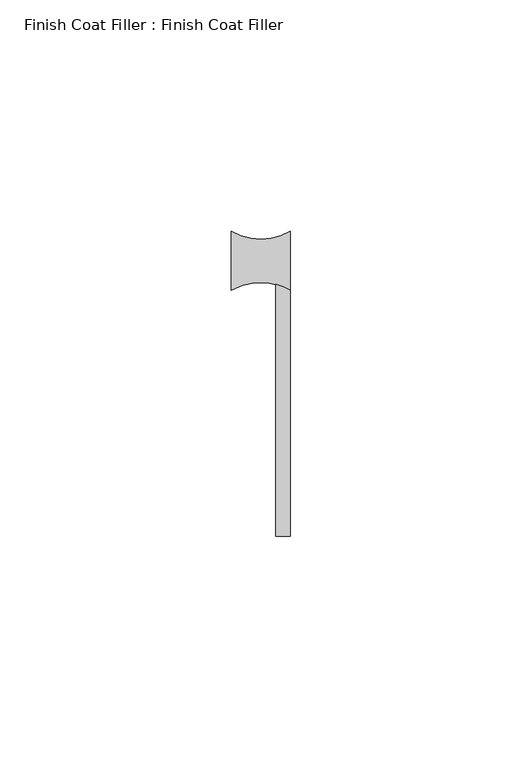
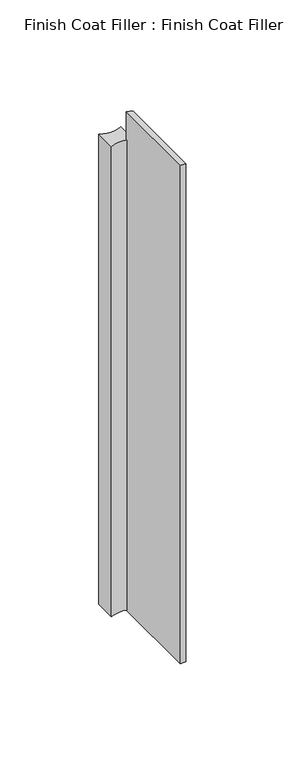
"""IFC4 building model written with IfcOpenShell, lengths in millimetres: proxy geometry, Finish Coat Filler : Finish Coat Filler."""

from ifc_helpers import new_model, si_unit, point, frame_2d, origin, origin_with_axes, place, context, project, spatial, polyline, circle_curve, trimmed, segment, composite_curve, outline, extrude, source, transform, mapped, element, save


def finish_coat_filler_finish_coat_filler_f99f7fa1(model_context):
    return source(origin(), model_context, "Body", "SweptSolid", [
        extrude(outline(composite_curve([segment(polyline([(26843.1851773, 591.9128797), (26843.1851773, 604.6128797)]), True, "CONTINUOUS"), segment(trimmed(circle_curve(frame_2d((26849.5351773, 615.6114023)), 12.7), [point((26843.1851773, 604.6128797))], [point((26855.8851773, 604.6128797))], True, "CARTESIAN"), True, "CONTINUOUS"), segment(polyline([(26855.8851773, 604.6128797), (26855.8851773, 591.9128797)]), True, "CONTINUOUS"), segment(trimmed(circle_curve(frame_2d((26849.5351773, 580.914357)), 12.7), [point((26855.8851773, 591.9128797))], [point((26843.1851773, 591.9128797))], True, "CARTESIAN"), True, "CONTINUOUS")], self_intersect=False)), origin_with_axes(), (0.0, 0.0, 1.0), 290.5125),
        extrude(outline(composite_curve([segment(polyline([(26852.7101773, 538.7316297), (26852.7101773, 593.2110791)]), True, "CONTINUOUS"), segment(trimmed(circle_curve(frame_2d((26849.5351773, 580.914357)), 12.7), [point((26852.7101773, 593.2110791))], [point((26855.8851773, 591.9128797))], False, "CARTESIAN"), True, "CONTINUOUS"), segment(polyline([(26855.8851773, 591.9128797), (26855.8851773, 538.7316297), (26852.7101773, 538.7316297)]), True, "CONTINUOUS")], self_intersect=False)), origin_with_axes(), (0.0, 0.0, 1.0), 307.849222),
    ])


if __name__ == "__main__":
    model = new_model("IFC4")
    model_context = context("Model", 3, world=origin())
    ifc_project = project(units=[si_unit("LENGTHUNIT", "METRE", prefix="MILLI")], contexts=[model_context])
    site = spatial("IfcSite", under=ifc_project)
    building = spatial("IfcBuilding", under=site)
    placement = place(None, origin())
    finish_coat_filler_finish_coat_filler_shape = finish_coat_filler_finish_coat_filler_f99f7fa1(model_context)
    element("IfcBuildingElementProxy", 1, Name="Finish Coat Filler : Finish Coat Filler", ObjectType="Finish Coat Filler : Finish Coat Filler", at=placement, inside=building, context=model_context, shape_type="MappedRepresentation", body=[
        mapped(finish_coat_filler_finish_coat_filler_shape, transform((0.0, 0.0, 0.0), x_axis=(1.0, 0.0, 0.0), y_axis=(0.0, 1.0, 0.0), z_axis=(0.0, 0.0, 1.0))),
    ])
    save(model, "model.ifc")
